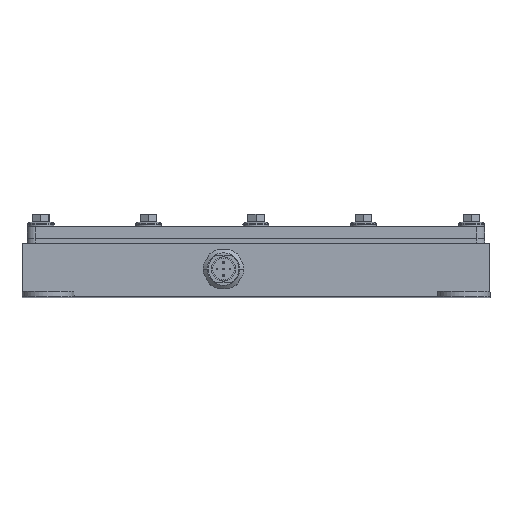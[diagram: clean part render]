
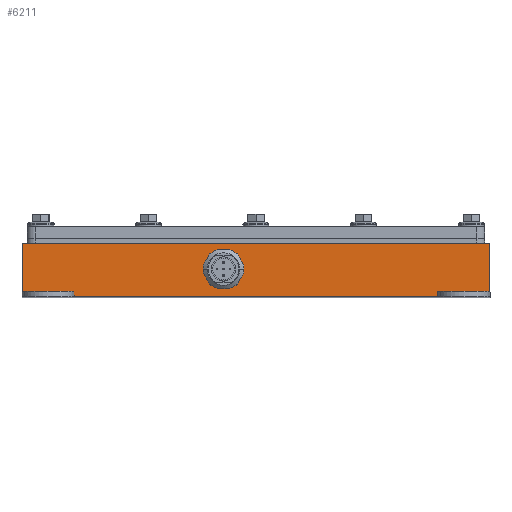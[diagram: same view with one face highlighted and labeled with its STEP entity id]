
A CAD part, top view. The second image highlights one B-rep face of the part: STEP entity #6211.
In plain terms, the highlighted planar face has unit normal (0, 0, 1).
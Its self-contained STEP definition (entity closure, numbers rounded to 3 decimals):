
#56 = LINE ( 'NONE', #7822, #2961 ) ;
#106 = CARTESIAN_POINT ( 'NONE',  ( 98.425, -12.554, 0. ) ) ;
#155 = VECTOR ( 'NONE', #5967, 1000. ) ;
#307 = DIRECTION ( 'NONE',  ( 0., 1., 0. ) ) ;
#334 = DIRECTION ( 'NONE',  ( 0., 1., 0. ) ) ;
#367 = CARTESIAN_POINT ( 'NONE',  ( 0., 0., 0. ) ) ;
#388 = AXIS2_PLACEMENT_3D ( 'NONE', #3493, #7517, #8157 ) ;
#401 = CARTESIAN_POINT ( 'NONE',  ( 91.567, -9.164, 0. ) ) ;
#842 = EDGE_CURVE ( 'NONE', #4894, #8606, #2573, .T. ) ;
#885 = DIRECTION ( 'NONE',  ( 0., 0., -1. ) ) ;
#959 = ORIENTED_EDGE ( 'NONE', *, *, #6518, .T. ) ;
#1030 = ORIENTED_EDGE ( 'NONE', *, *, #9237, .T. ) ;
#1101 = LINE ( 'NONE', #367, #8847 ) ;
#1251 = LINE ( 'NONE', #2803, #155 ) ;
#1284 = ORIENTED_EDGE ( 'NONE', *, *, #7264, .T. ) ;
#1314 = VERTEX_POINT ( 'NONE', #5620 ) ;
#1367 = ORIENTED_EDGE ( 'NONE', *, *, #7864, .T. ) ;
#1506 = ORIENTED_EDGE ( 'NONE', *, *, #5944, .T. ) ;
#1567 = DIRECTION ( 'NONE',  ( 0., -1., 0. ) ) ;
#1568 = EDGE_LOOP ( 'NONE', ( #959, #9898, #5571, #5957, #2040, #1506, #1030, #1284 ) ) ;
#1772 = EDGE_CURVE ( 'NONE', #4136, #8321, #6678, .T. ) ;
#1943 = VECTOR ( 'NONE', #4515, 1000. ) ;
#1956 = ORIENTED_EDGE ( 'NONE', *, *, #6956, .T. ) ;
#2038 = CARTESIAN_POINT ( 'NONE',  ( 228.6, -26.187, 0. ) ) ;
#2040 = ORIENTED_EDGE ( 'NONE', *, *, #6337, .T. ) ;
#2085 = CARTESIAN_POINT ( 'NONE',  ( 228.6, -23.52, 0. ) ) ;
#2238 = LINE ( 'NONE', #5451, #1943 ) ;
#2522 = VERTEX_POINT ( 'NONE', #5045 ) ;
#2573 = LINE ( 'NONE', #8970, #3779 ) ;
#2803 = CARTESIAN_POINT ( 'NONE',  ( 228.6, -26.187, 0. ) ) ;
#2902 = EDGE_CURVE ( 'NONE', #6752, #9325, #56, .T. ) ;
#2961 = VECTOR ( 'NONE', #1567, 1000. ) ;
#3240 = EDGE_CURVE ( 'NONE', #2522, #4136, #1251, .T. ) ;
#3329 = CARTESIAN_POINT ( 'NONE',  ( 0., -23.52, 0. ) ) ;
#3394 = VECTOR ( 'NONE', #10174, 1000. ) ;
#3493 = CARTESIAN_POINT ( 'NONE',  ( 98.425, -12.554, 0. ) ) ;
#3761 = CIRCLE ( 'NONE', #7894, 7.65 ) ;
#3779 = VECTOR ( 'NONE', #9606, 1000. ) ;
#3836 = VERTEX_POINT ( 'NONE', #7434 ) ;
#3906 = CARTESIAN_POINT ( 'NONE',  ( 25.4, -23.52, 0. ) ) ;
#4136 = VERTEX_POINT ( 'NONE', #5570 ) ;
#4195 = VERTEX_POINT ( 'NONE', #3906 ) ;
#4515 = DIRECTION ( 'NONE',  ( 0., -1., 0. ) ) ;
#4682 = CARTESIAN_POINT ( 'NONE',  ( 105.283, -9.164, 0. ) ) ;
#4774 = FACE_BOUND ( 'NONE', #5473, .T. ) ;
#4894 = VERTEX_POINT ( 'NONE', #5190 ) ;
#5025 = VECTOR ( 'NONE', #334, 1000. ) ;
#5030 = AXIS2_PLACEMENT_3D ( 'NONE', #9466, #6385, #9523 ) ;
#5045 = CARTESIAN_POINT ( 'NONE',  ( 25.4, -26.187, 0. ) ) ;
#5190 = CARTESIAN_POINT ( 'NONE',  ( 91.567, -15.944, 0. ) ) ;
#5192 = LINE ( 'NONE', #2038, #5025 ) ;
#5388 = EDGE_CURVE ( 'NONE', #4195, #2522, #7013, .T. ) ;
#5433 = LINE ( 'NONE', #6980, #7660 ) ;
#5451 = CARTESIAN_POINT ( 'NONE',  ( 0., -26.187, 0. ) ) ;
#5473 = EDGE_LOOP ( 'NONE', ( #1367, #6409, #1956, #6896 ) ) ;
#5570 = CARTESIAN_POINT ( 'NONE',  ( 203.2, -26.187, 0. ) ) ;
#5571 = ORIENTED_EDGE ( 'NONE', *, *, #3240, .T. ) ;
#5620 = CARTESIAN_POINT ( 'NONE',  ( 0., 0., 0. ) ) ;
#5662 = FACE_OUTER_BOUND ( 'NONE', #1568, .T. ) ;
#5706 = VECTOR ( 'NONE', #6439, 1000. ) ;
#5813 = DIRECTION ( 'NONE',  ( -1., 0., 0. ) ) ;
#5944 = EDGE_CURVE ( 'NONE', #6165, #9297, #5192, .T. ) ;
#5957 = ORIENTED_EDGE ( 'NONE', *, *, #1772, .T. ) ;
#5967 = DIRECTION ( 'NONE',  ( 1., 0., 0. ) ) ;
#6165 = VERTEX_POINT ( 'NONE', #2085 ) ;
#6211 = ADVANCED_FACE ( 'NONE', ( #5662, #4774 ), #8567, .T. ) ;
#6337 = EDGE_CURVE ( 'NONE', #8321, #6165, #7041, .T. ) ;
#6369 = CARTESIAN_POINT ( 'NONE',  ( 203.2, -23.52, 0. ) ) ;
#6385 = DIRECTION ( 'NONE',  ( 0., 0., 1. ) ) ;
#6409 = ORIENTED_EDGE ( 'NONE', *, *, #842, .T. ) ;
#6439 = DIRECTION ( 'NONE',  ( 1., 0., 0. ) ) ;
#6518 = EDGE_CURVE ( 'NONE', #3836, #4195, #5433, .T. ) ;
#6678 = LINE ( 'NONE', #8986, #7459 ) ;
#6752 = VERTEX_POINT ( 'NONE', #4682 ) ;
#6871 = CARTESIAN_POINT ( 'NONE',  ( 105.283, -15.944, 0. ) ) ;
#6896 = ORIENTED_EDGE ( 'NONE', *, *, #2902, .T. ) ;
#6956 = EDGE_CURVE ( 'NONE', #8606, #6752, #7488, .T. ) ;
#6980 = CARTESIAN_POINT ( 'NONE',  ( 0., -23.52, 0. ) ) ;
#7013 = LINE ( 'NONE', #7547, #3394 ) ;
#7041 = LINE ( 'NONE', #3329, #5706 ) ;
#7264 = EDGE_CURVE ( 'NONE', #1314, #3836, #2238, .T. ) ;
#7434 = CARTESIAN_POINT ( 'NONE',  ( 0., -23.52, 0. ) ) ;
#7459 = VECTOR ( 'NONE', #307, 1000. ) ;
#7488 = CIRCLE ( 'NONE', #388, 7.65 ) ;
#7517 = DIRECTION ( 'NONE',  ( 0., 0., -1. ) ) ;
#7547 = CARTESIAN_POINT ( 'NONE',  ( 25.4, -26.187, 0. ) ) ;
#7644 = CARTESIAN_POINT ( 'NONE',  ( 228.6, 0., 0. ) ) ;
#7660 = VECTOR ( 'NONE', #10136, 1000. ) ;
#7822 = CARTESIAN_POINT ( 'NONE',  ( 105.283, -26.187, 0. ) ) ;
#7864 = EDGE_CURVE ( 'NONE', #9325, #4894, #3761, .T. ) ;
#7894 = AXIS2_PLACEMENT_3D ( 'NONE', #106, #885, #8745 ) ;
#8157 = DIRECTION ( 'NONE',  ( 1., 0., 0. ) ) ;
#8321 = VERTEX_POINT ( 'NONE', #6369 ) ;
#8567 = PLANE ( 'NONE',  #5030 ) ;
#8606 = VERTEX_POINT ( 'NONE', #401 ) ;
#8745 = DIRECTION ( 'NONE',  ( 1., 0., 0. ) ) ;
#8847 = VECTOR ( 'NONE', #5813, 1000. ) ;
#8970 = CARTESIAN_POINT ( 'NONE',  ( 91.567, -26.187, 0. ) ) ;
#8986 = CARTESIAN_POINT ( 'NONE',  ( 203.2, -26.187, 0. ) ) ;
#9237 = EDGE_CURVE ( 'NONE', #9297, #1314, #1101, .T. ) ;
#9297 = VERTEX_POINT ( 'NONE', #7644 ) ;
#9325 = VERTEX_POINT ( 'NONE', #6871 ) ;
#9466 = CARTESIAN_POINT ( 'NONE',  ( 0., -26.187, 0. ) ) ;
#9523 = DIRECTION ( 'NONE',  ( 1., 0., 0. ) ) ;
#9606 = DIRECTION ( 'NONE',  ( 0., 1., 0. ) ) ;
#9898 = ORIENTED_EDGE ( 'NONE', *, *, #5388, .T. ) ;
#10136 = DIRECTION ( 'NONE',  ( 1., 0., 0. ) ) ;
#10174 = DIRECTION ( 'NONE',  ( 0., -1., 0. ) ) ;
